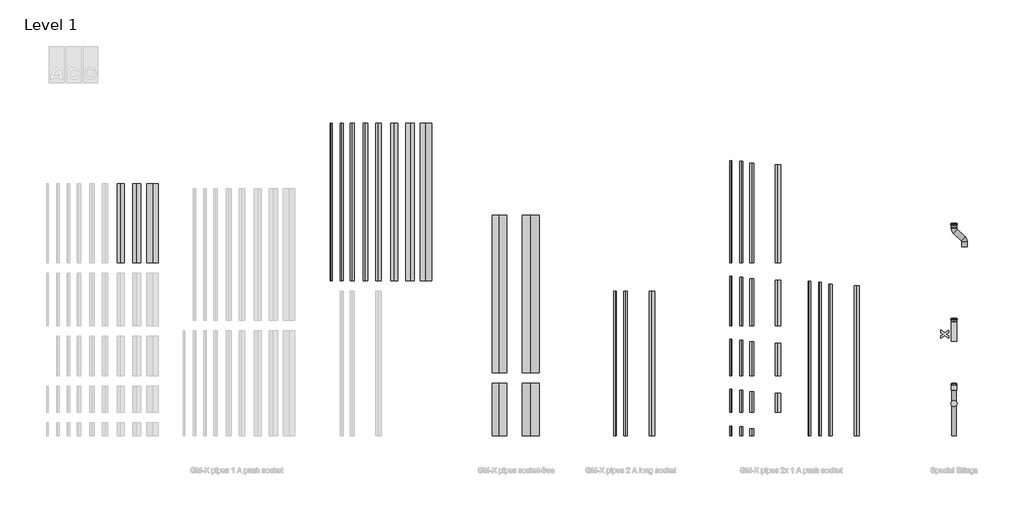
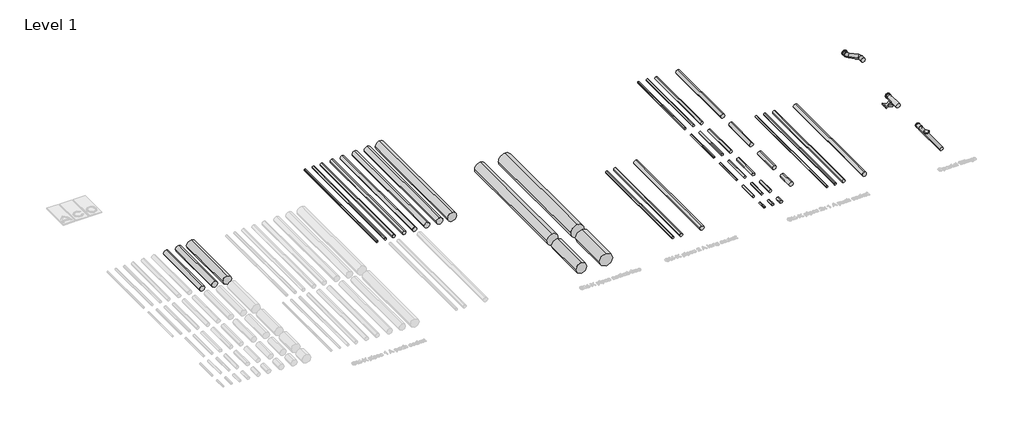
# One storey, part 5 of 8: 41 pipe segments, 4 pipe fittings, 2 valves.
"""IFC4 building model written with IfcOpenShell, lengths in millimetres."""

from ifc_helpers import new_model, si_unit, point, frame, frame_2d, origin, place, context, project, spatial, circle_curve, trimmed, segment, composite_curve, outline, extrude, transform, mapped, element, save
from components import std_49879931, std_nested_473bf3f7, std_nested_0415c611, dn100_200mm_f5a09feb, dn100_200mm_64a89e8e

model = new_model("IFC4")

# Units and contexts
model_context = context("Model", 3, world=origin())
ifc_project = project(units=[si_unit("LENGTHUNIT", "METRE", prefix="MILLI")], contexts=[model_context])

# Site, building, storey
site = spatial("IfcSite", under=ifc_project)
building = spatial("IfcBuilding", under=site)
storey = spatial("IfcBuildingStorey", under=building, Name="Level 1", Elevation=0.0)

# Pipe fittings
placement = place(None, origin())
std_shape = std_49879931(model_context)
element("IfcPipeFitting", 1, ObjectType="PIF_ST_UN_GM-X raindown pipe_ACO : std", at=placement, inside=storey, context=model_context, shape_type="MappedRepresentation", body=[
    mapped(std_shape, transform((17750.0, 435.0, 0.0), x_axis=(0.0, 1.0000000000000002, 0.0), y_axis=(-1.0000000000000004, 0.0, 0.0), z_axis=(0.0, 0.0, 1.0000000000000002))),
])
std_nested_shape = std_nested_473bf3f7(model_context)
element("IfcPipeFitting", 2, ObjectType="ZZZ_do not use_PIF_ST_UN_GM-X seal non transitional_ACO : std (nested)", at=placement, inside=storey, context=model_context, shape_type="MappedRepresentation", body=[
    mapped(std_nested_shape, transform((17750.0, 2241.8, 0.0), x_axis=(0.0, 1.0, 0.0), y_axis=(-1.0000000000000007, 0.0, 0.0), z_axis=(0.0, 0.0, 1.0000000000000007))),
])
element("IfcPipeFitting", 3, ObjectType="ZZZ_do not use_PIF_ST_UN_GM-X seal non transitional_ACO : std (nested)", at=placement, inside=storey, context=model_context, shape_type="MappedRepresentation", body=[
    mapped(std_nested_shape, transform((17750.0, 4043.6, 0.0), x_axis=(0.0, 1.0, 0.0), y_axis=(-1.0000000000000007, 0.0, 0.0), z_axis=(0.0, 0.0, 1.0000000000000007))),
])
std_nested_2_shape = std_nested_0415c611(model_context)
element("IfcPipeFitting", 4, ObjectType="ZZZ_do not use_PIF_ST_UN_GM-X seal non transitional_ACO : std (nested)", at=placement, inside=storey, context=model_context, shape_type="MappedRepresentation", body=[
    mapped(std_nested_2_shape, transform((17750.0, 1000.0, 0.0), x_axis=(0.0, 1.0000000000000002, 0.0), y_axis=(-1.0000000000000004, 0.0, 0.0), z_axis=(0.0, 0.0, 1.0000000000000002))),
])

# Pipe segments
element("IfcPipeSegment", 5, ObjectType="GM-X pipe complex", at=placement, inside=storey, context=model_context, shape_type="SweptSolid", body=[
    extrude(outline(composite_curve([segment(trimmed(circle_curve(frame_2d((0.0, 1900.0)), 66.5), [point((0.0, 1966.5))], [point((66.5, 1900.0))], False, "CARTESIAN"), True, "CONTINUOUS"), segment(trimmed(circle_curve(frame_2d((0.0, 1900.0)), 66.5), [point((66.5, 1900.0))], [point((0.0, 1833.5))], False, "CARTESIAN"), True, "CONTINUOUS"), segment(trimmed(circle_curve(frame_2d((0.0, 1900.0)), 66.5), [point((0.0, 1833.5))], [point((-66.5, 1900.0))], False, "CARTESIAN"), True, "CONTINUOUS"), segment(trimmed(circle_curve(frame_2d((0.0, 1900.0)), 66.5), [point((-66.5, 1900.0))], [point((0.0, 1966.5))], False, "CARTESIAN"), True, "CONTINUOUS")], self_intersect=False)), frame((0.0, 3300.0, 0.0), z_axis=(0.0, 1.0, 0.0), x_axis=(0.0, 0.0, 1.0)), (0.0, 0.0, 1.0), 1500.0),
])
element("IfcPipeSegment", 6, ObjectType="GM-X pipe complex", at=placement, inside=storey, context=model_context, shape_type="SweptSolid", body=[
    extrude(outline(composite_curve([segment(trimmed(circle_curve(frame_2d((0.0, 2200.0)), 79.5), [point((0.0, 2279.5))], [point((79.5, 2200.0))], False, "CARTESIAN"), True, "CONTINUOUS"), segment(trimmed(circle_curve(frame_2d((0.0, 2200.0)), 79.5), [point((79.5, 2200.0))], [point((0.0, 2120.5))], False, "CARTESIAN"), True, "CONTINUOUS"), segment(trimmed(circle_curve(frame_2d((0.0, 2200.0)), 79.5), [point((0.0, 2120.5))], [point((-79.5, 2200.0))], False, "CARTESIAN"), True, "CONTINUOUS"), segment(trimmed(circle_curve(frame_2d((0.0, 2200.0)), 79.5), [point((-79.5, 2200.0))], [point((0.0, 2279.5))], False, "CARTESIAN"), True, "CONTINUOUS")], self_intersect=False)), frame((0.0, 3300.0, 0.0), z_axis=(0.0, 1.0, 0.0), x_axis=(0.0, 0.0, 1.0)), (0.0, 0.0, 1.0), 1500.0),
])
element("IfcPipeSegment", 7, ObjectType="GM-X pipe complex", at=placement, inside=storey, context=model_context, shape_type="SweptSolid", body=[
    extrude(outline(composite_curve([segment(trimmed(circle_curve(frame_2d((0.0, 2500.0)), 109.5), [point((0.0, 2609.5))], [point((109.5, 2500.0))], False, "CARTESIAN"), True, "CONTINUOUS"), segment(trimmed(circle_curve(frame_2d((0.0, 2500.0)), 109.5), [point((109.5, 2500.0))], [point((0.0, 2390.5))], False, "CARTESIAN"), True, "CONTINUOUS"), segment(trimmed(circle_curve(frame_2d((0.0, 2500.0)), 109.5), [point((0.0, 2390.5))], [point((-109.5, 2500.0))], False, "CARTESIAN"), True, "CONTINUOUS"), segment(trimmed(circle_curve(frame_2d((0.0, 2500.0)), 109.5), [point((-109.5, 2500.0))], [point((0.0, 2609.5))], False, "CARTESIAN"), True, "CONTINUOUS")], self_intersect=False)), frame((0.0, 3300.0, 0.0), z_axis=(0.0, 1.0, 0.0), x_axis=(0.0, 0.0, 1.0)), (0.0, 0.0, 1.0), 1500.0),
])
element("IfcPipeSegment", 8, ObjectType="GM-X pipe complex", at=placement, inside=storey, context=model_context, shape_type="SweptSolid", body=[
    extrude(outline(composite_curve([segment(trimmed(circle_curve(frame_2d((0.0, 5900.0)), 21.5), [point((0.0, 5921.5))], [point((21.5, 5900.0))], False, "CARTESIAN"), True, "CONTINUOUS"), segment(trimmed(circle_curve(frame_2d((0.0, 5900.0)), 21.5), [point((21.5, 5900.0))], [point((0.0, 5878.5))], False, "CARTESIAN"), True, "CONTINUOUS"), segment(trimmed(circle_curve(frame_2d((0.0, 5900.0)), 21.5), [point((0.0, 5878.5))], [point((-21.5, 5900.0))], False, "CARTESIAN"), True, "CONTINUOUS"), segment(trimmed(circle_curve(frame_2d((0.0, 5900.0)), 21.5), [point((-21.5, 5900.0))], [point((0.0, 5921.5))], False, "CARTESIAN"), True, "CONTINUOUS")], self_intersect=False)), frame((0.0, 2950.0, 0.0), z_axis=(0.0, 1.0, 0.0), x_axis=(0.0, 0.0, 1.0)), (0.0, 0.0, 1.0), 3000.0),
])
element("IfcPipeSegment", 9, ObjectType="GM-X pipe complex", at=placement, inside=storey, context=model_context, shape_type="SweptSolid", body=[
    extrude(outline(composite_curve([segment(trimmed(circle_curve(frame_2d((0.0, 6100.0)), 26.5), [point((0.0, 6126.5))], [point((26.5, 6100.0))], False, "CARTESIAN"), True, "CONTINUOUS"), segment(trimmed(circle_curve(frame_2d((0.0, 6100.0)), 26.5), [point((26.5, 6100.0))], [point((0.0, 6073.5))], False, "CARTESIAN"), True, "CONTINUOUS"), segment(trimmed(circle_curve(frame_2d((0.0, 6100.0)), 26.5), [point((0.0, 6073.5))], [point((-26.5, 6100.0))], False, "CARTESIAN"), True, "CONTINUOUS"), segment(trimmed(circle_curve(frame_2d((0.0, 6100.0)), 26.5), [point((-26.5, 6100.0))], [point((0.0, 6126.5))], False, "CARTESIAN"), True, "CONTINUOUS")], self_intersect=False)), frame((0.0, 2950.0, 0.0), z_axis=(0.0, 1.0, 0.0), x_axis=(0.0, 0.0, 1.0)), (0.0, 0.0, 1.0), 3000.0),
])
element("IfcPipeSegment", 10, ObjectType="GM-X pipe complex", at=placement, inside=storey, context=model_context, shape_type="SweptSolid", body=[
    extrude(outline(composite_curve([segment(trimmed(circle_curve(frame_2d((0.0, 6300.0)), 36.5), [point((0.0, 6336.5))], [point((36.5, 6300.0))], False, "CARTESIAN"), True, "CONTINUOUS"), segment(trimmed(circle_curve(frame_2d((0.0, 6300.0)), 36.5), [point((36.5, 6300.0))], [point((0.0, 6263.5))], False, "CARTESIAN"), True, "CONTINUOUS"), segment(trimmed(circle_curve(frame_2d((0.0, 6300.0)), 36.5), [point((0.0, 6263.5))], [point((-36.5, 6300.0))], False, "CARTESIAN"), True, "CONTINUOUS"), segment(trimmed(circle_curve(frame_2d((0.0, 6300.0)), 36.5), [point((-36.5, 6300.0))], [point((0.0, 6336.5))], False, "CARTESIAN"), True, "CONTINUOUS")], self_intersect=False)), frame((0.0, 2950.0, 0.0), z_axis=(0.0, 1.0, 0.0), x_axis=(0.0, 0.0, 1.0)), (0.0, 0.0, 1.0), 3000.0),
])
element("IfcPipeSegment", 11, ObjectType="GM-X pipe complex", at=placement, inside=storey, context=model_context, shape_type="SweptSolid", body=[
    extrude(outline(composite_curve([segment(trimmed(circle_curve(frame_2d((0.0, 6550.0)), 44.5), [point((0.0, 6594.5))], [point((44.5, 6550.0))], False, "CARTESIAN"), True, "CONTINUOUS"), segment(trimmed(circle_curve(frame_2d((0.0, 6550.0)), 44.5), [point((44.5, 6550.0))], [point((0.0, 6505.5))], False, "CARTESIAN"), True, "CONTINUOUS"), segment(trimmed(circle_curve(frame_2d((0.0, 6550.0)), 44.5), [point((0.0, 6505.5))], [point((-44.5, 6550.0))], False, "CARTESIAN"), True, "CONTINUOUS"), segment(trimmed(circle_curve(frame_2d((0.0, 6550.0)), 44.5), [point((-44.5, 6550.0))], [point((0.0, 6594.5))], False, "CARTESIAN"), True, "CONTINUOUS")], self_intersect=False)), frame((0.0, 2950.0, 0.0), z_axis=(0.0, 1.0, 0.0), x_axis=(0.0, 0.0, 1.0)), (0.0, 0.0, 1.0), 3000.0),
])
element("IfcPipeSegment", 12, ObjectType="GM-X pipe complex", at=placement, inside=storey, context=model_context, shape_type="SweptSolid", body=[
    extrude(outline(composite_curve([segment(trimmed(circle_curve(frame_2d((0.0, 6800.0)), 51.5), [point((0.0, 6851.5))], [point((51.5, 6800.0))], False, "CARTESIAN"), True, "CONTINUOUS"), segment(trimmed(circle_curve(frame_2d((0.0, 6800.0)), 51.5), [point((51.5, 6800.0))], [point((0.0, 6748.5))], False, "CARTESIAN"), True, "CONTINUOUS"), segment(trimmed(circle_curve(frame_2d((0.0, 6800.0)), 51.5), [point((0.0, 6748.5))], [point((-51.5, 6800.0))], False, "CARTESIAN"), True, "CONTINUOUS"), segment(trimmed(circle_curve(frame_2d((0.0, 6800.0)), 51.5), [point((-51.5, 6800.0))], [point((0.0, 6851.5))], False, "CARTESIAN"), True, "CONTINUOUS")], self_intersect=False)), frame((0.0, 2950.0, 0.0), z_axis=(0.0, 1.0, 0.0), x_axis=(0.0, 0.0, 1.0)), (0.0, 0.0, 1.0), 3000.0),
])
element("IfcPipeSegment", 13, ObjectType="GM-X pipe complex", at=placement, inside=storey, context=model_context, shape_type="SweptSolid", body=[
    extrude(outline(composite_curve([segment(trimmed(circle_curve(frame_2d((0.0, 7100.0)), 66.5), [point((0.0, 7166.5))], [point((66.5, 7100.0))], False, "CARTESIAN"), True, "CONTINUOUS"), segment(trimmed(circle_curve(frame_2d((0.0, 7100.0)), 66.5), [point((66.5, 7100.0))], [point((0.0, 7033.5))], False, "CARTESIAN"), True, "CONTINUOUS"), segment(trimmed(circle_curve(frame_2d((0.0, 7100.0)), 66.5), [point((0.0, 7033.5))], [point((-66.5, 7100.0))], False, "CARTESIAN"), True, "CONTINUOUS"), segment(trimmed(circle_curve(frame_2d((0.0, 7100.0)), 66.5), [point((-66.5, 7100.0))], [point((0.0, 7166.5))], False, "CARTESIAN"), True, "CONTINUOUS")], self_intersect=False)), frame((0.0, 2950.0, 0.0), z_axis=(0.0, 1.0, 0.0), x_axis=(0.0, 0.0, 1.0)), (0.0, 0.0, 1.0), 3000.0),
])
element("IfcPipeSegment", 14, ObjectType="GM-X pipe complex", at=placement, inside=storey, context=model_context, shape_type="SweptSolid", body=[
    extrude(outline(composite_curve([segment(trimmed(circle_curve(frame_2d((0.0, 7400.0)), 79.5), [point((0.0, 7479.5))], [point((79.5, 7400.0))], False, "CARTESIAN"), True, "CONTINUOUS"), segment(trimmed(circle_curve(frame_2d((0.0, 7400.0)), 79.5), [point((79.5, 7400.0))], [point((0.0, 7320.5))], False, "CARTESIAN"), True, "CONTINUOUS"), segment(trimmed(circle_curve(frame_2d((0.0, 7400.0)), 79.5), [point((0.0, 7320.5))], [point((-79.5, 7400.0))], False, "CARTESIAN"), True, "CONTINUOUS"), segment(trimmed(circle_curve(frame_2d((0.0, 7400.0)), 79.5), [point((-79.5, 7400.0))], [point((0.0, 7479.5))], False, "CARTESIAN"), True, "CONTINUOUS")], self_intersect=False)), frame((0.0, 2950.0, 0.0), z_axis=(0.0, 1.0, 0.0), x_axis=(0.0, 0.0, 1.0)), (0.0, 0.0, 1.0), 3000.0),
])
element("IfcPipeSegment", 15, ObjectType="GM-X pipe complex", at=placement, inside=storey, context=model_context, shape_type="SweptSolid", body=[
    extrude(outline(composite_curve([segment(trimmed(circle_curve(frame_2d((0.0, 7700.0)), 109.5), [point((0.0, 7809.5))], [point((109.5, 7700.0))], False, "CARTESIAN"), True, "CONTINUOUS"), segment(trimmed(circle_curve(frame_2d((0.0, 7700.0)), 109.5), [point((109.5, 7700.0))], [point((0.0, 7590.5))], False, "CARTESIAN"), True, "CONTINUOUS"), segment(trimmed(circle_curve(frame_2d((0.0, 7700.0)), 109.5), [point((0.0, 7590.5))], [point((-109.5, 7700.0))], False, "CARTESIAN"), True, "CONTINUOUS"), segment(trimmed(circle_curve(frame_2d((0.0, 7700.0)), 109.5), [point((-109.5, 7700.0))], [point((0.0, 7809.5))], False, "CARTESIAN"), True, "CONTINUOUS")], self_intersect=False)), frame((0.0, 2950.0, 0.0), z_axis=(0.0, 1.0, 0.0), x_axis=(0.0, 0.0, 1.0)), (0.0, 0.0, 1.0), 3000.0),
])
element("IfcPipeSegment", 16, ObjectType="GM-X pipe complex", at=placement, inside=storey, context=model_context, shape_type="SweptSolid", body=[
    extrude(outline(composite_curve([segment(trimmed(circle_curve(frame_2d((0.0, 9100.0)), 136.5), [point((0.0, 9236.5))], [point((136.5, 9100.0))], False, "CARTESIAN"), True, "CONTINUOUS"), segment(trimmed(circle_curve(frame_2d((0.0, 9100.0)), 136.5), [point((136.5, 9100.0))], [point((0.0, 8963.5))], False, "CARTESIAN"), True, "CONTINUOUS"), segment(trimmed(circle_curve(frame_2d((0.0, 9100.0)), 136.5), [point((0.0, 8963.5))], [point((-136.5, 9100.0))], False, "CARTESIAN"), True, "CONTINUOUS"), segment(trimmed(circle_curve(frame_2d((0.0, 9100.0)), 136.5), [point((-136.5, 9100.0))], [point((0.0, 9236.5))], False, "CARTESIAN"), True, "CONTINUOUS")], self_intersect=False)), frame((0.0, 0.0, 0.0), z_axis=(0.0, 1.0, 0.0), x_axis=(0.0, 0.0, 1.0)), (0.0, 0.0, 1.0), 1000.0),
])
element("IfcPipeSegment", 17, ObjectType="GM-X pipe complex", at=placement, inside=storey, context=model_context, shape_type="SweptSolid", body=[
    extrude(outline(composite_curve([segment(trimmed(circle_curve(frame_2d((0.0, 9700.0)), 162.0), [point((0.0, 9862.0))], [point((162.0, 9700.0))], False, "CARTESIAN"), True, "CONTINUOUS"), segment(trimmed(circle_curve(frame_2d((0.0, 9700.0)), 162.0), [point((162.0, 9700.0))], [point((0.0, 9538.0))], False, "CARTESIAN"), True, "CONTINUOUS"), segment(trimmed(circle_curve(frame_2d((0.0, 9700.0)), 162.0), [point((0.0, 9538.0))], [point((-162.0, 9700.0))], False, "CARTESIAN"), True, "CONTINUOUS"), segment(trimmed(circle_curve(frame_2d((0.0, 9700.0)), 162.0), [point((-162.0, 9700.0))], [point((0.0, 9862.0))], False, "CARTESIAN"), True, "CONTINUOUS")], self_intersect=False)), frame((0.0, 0.0, 0.0), z_axis=(0.0, 1.0, 0.0), x_axis=(0.0, 0.0, 1.0)), (0.0, 0.0, 1.0), 1000.0),
])
element("IfcPipeSegment", 18, ObjectType="GM-X pipe complex", at=placement, inside=storey, context=model_context, shape_type="SweptSolid", body=[
    extrude(outline(composite_curve([segment(trimmed(circle_curve(frame_2d((0.0, 9100.0)), 136.5), [point((0.0, 9236.5))], [point((136.5, 9100.0))], False, "CARTESIAN"), True, "CONTINUOUS"), segment(trimmed(circle_curve(frame_2d((0.0, 9100.0)), 136.5), [point((136.5, 9100.0))], [point((0.0, 8963.5))], False, "CARTESIAN"), True, "CONTINUOUS"), segment(trimmed(circle_curve(frame_2d((0.0, 9100.0)), 136.5), [point((0.0, 8963.5))], [point((-136.5, 9100.0))], False, "CARTESIAN"), True, "CONTINUOUS"), segment(trimmed(circle_curve(frame_2d((0.0, 9100.0)), 136.5), [point((-136.5, 9100.0))], [point((0.0, 9236.5))], False, "CARTESIAN"), True, "CONTINUOUS")], self_intersect=False)), frame((0.0, 1200.0, 0.0), z_axis=(0.0, 1.0, 0.0), x_axis=(0.0, 0.0, 1.0)), (0.0, 0.0, 1.0), 3000.0),
])
element("IfcPipeSegment", 19, ObjectType="GM-X pipe complex", at=placement, inside=storey, context=model_context, shape_type="SweptSolid", body=[
    extrude(outline(composite_curve([segment(trimmed(circle_curve(frame_2d((0.0, 9700.0)), 162.0), [point((0.0, 9862.0))], [point((162.0, 9700.0))], False, "CARTESIAN"), True, "CONTINUOUS"), segment(trimmed(circle_curve(frame_2d((0.0, 9700.0)), 162.0), [point((162.0, 9700.0))], [point((0.0, 9538.0))], False, "CARTESIAN"), True, "CONTINUOUS"), segment(trimmed(circle_curve(frame_2d((0.0, 9700.0)), 162.0), [point((0.0, 9538.0))], [point((-162.0, 9700.0))], False, "CARTESIAN"), True, "CONTINUOUS"), segment(trimmed(circle_curve(frame_2d((0.0, 9700.0)), 162.0), [point((-162.0, 9700.0))], [point((0.0, 9862.0))], False, "CARTESIAN"), True, "CONTINUOUS")], self_intersect=False)), frame((0.0, 1200.0, 0.0), z_axis=(0.0, 1.0, 0.0), x_axis=(0.0, 0.0, 1.0)), (0.0, 0.0, 1.0), 3000.0),
])
element("IfcPipeSegment", 20, ObjectType="GM-X pipe complex", at=placement, inside=storey, context=model_context, shape_type="SweptSolid", body=[
    extrude(outline(composite_curve([segment(trimmed(circle_curve(frame_2d((0.0, 11300.0)), 26.5), [point((0.0, 11326.5))], [point((26.5, 11300.0))], False, "CARTESIAN"), True, "CONTINUOUS"), segment(trimmed(circle_curve(frame_2d((0.0, 11300.0)), 26.5), [point((26.5, 11300.0))], [point((0.0, 11273.5))], False, "CARTESIAN"), True, "CONTINUOUS"), segment(trimmed(circle_curve(frame_2d((0.0, 11300.0)), 26.5), [point((0.0, 11273.5))], [point((-26.5, 11300.0))], False, "CARTESIAN"), True, "CONTINUOUS"), segment(trimmed(circle_curve(frame_2d((0.0, 11300.0)), 26.5), [point((-26.5, 11300.0))], [point((0.0, 11326.5))], False, "CARTESIAN"), True, "CONTINUOUS")], self_intersect=False)), frame((0.0, 0.0, 0.0), z_axis=(0.0, 1.0, 0.0), x_axis=(0.0, 0.0, 1.0)), (0.0, 0.0, 1.0), 2750.0),
])
element("IfcPipeSegment", 21, ObjectType="GM-X pipe complex", at=placement, inside=storey, context=model_context, shape_type="SweptSolid", body=[
    extrude(outline(composite_curve([segment(trimmed(circle_curve(frame_2d((0.0, 11500.0)), 36.5), [point((0.0, 11536.5))], [point((36.5, 11500.0))], False, "CARTESIAN"), True, "CONTINUOUS"), segment(trimmed(circle_curve(frame_2d((0.0, 11500.0)), 36.5), [point((36.5, 11500.0))], [point((0.0, 11463.5))], False, "CARTESIAN"), True, "CONTINUOUS"), segment(trimmed(circle_curve(frame_2d((0.0, 11500.0)), 36.5), [point((0.0, 11463.5))], [point((-36.5, 11500.0))], False, "CARTESIAN"), True, "CONTINUOUS"), segment(trimmed(circle_curve(frame_2d((0.0, 11500.0)), 36.5), [point((-36.5, 11500.0))], [point((0.0, 11536.5))], False, "CARTESIAN"), True, "CONTINUOUS")], self_intersect=False)), frame((0.0, 0.0, 0.0), z_axis=(0.0, 1.0, 0.0), x_axis=(0.0, 0.0, 1.0)), (0.0, 0.0, 1.0), 2750.0),
])
element("IfcPipeSegment", 22, ObjectType="GM-X pipe complex", at=placement, inside=storey, context=model_context, shape_type="SweptSolid", body=[
    extrude(outline(composite_curve([segment(trimmed(circle_curve(frame_2d((0.0, 12000.0)), 51.5), [point((0.0, 12051.5))], [point((51.5, 12000.0))], False, "CARTESIAN"), True, "CONTINUOUS"), segment(trimmed(circle_curve(frame_2d((0.0, 12000.0)), 51.5), [point((51.5, 12000.0))], [point((0.0, 11948.5))], False, "CARTESIAN"), True, "CONTINUOUS"), segment(trimmed(circle_curve(frame_2d((0.0, 12000.0)), 51.5), [point((0.0, 11948.5))], [point((-51.5, 12000.0))], False, "CARTESIAN"), True, "CONTINUOUS"), segment(trimmed(circle_curve(frame_2d((0.0, 12000.0)), 51.5), [point((-51.5, 12000.0))], [point((0.0, 12051.5))], False, "CARTESIAN"), True, "CONTINUOUS")], self_intersect=False)), frame((0.0, 0.0, 0.0), z_axis=(0.0, 1.0, 0.0), x_axis=(0.0, 0.0, 1.0)), (0.0, 0.0, 1.0), 2750.0),
])
element("IfcPipeSegment", 23, ObjectType="GM-X pipe complex", at=placement, inside=storey, context=model_context, shape_type="SweptSolid", body=[
    extrude(outline(composite_curve([segment(trimmed(circle_curve(frame_2d((0.0, 13500.0)), 21.5), [point((0.0, 13521.5))], [point((21.5, 13500.0))], False, "CARTESIAN"), True, "CONTINUOUS"), segment(trimmed(circle_curve(frame_2d((0.0, 13500.0)), 21.5), [point((21.5, 13500.0))], [point((0.0, 13478.5))], False, "CARTESIAN"), True, "CONTINUOUS"), segment(trimmed(circle_curve(frame_2d((0.0, 13500.0)), 21.5), [point((0.0, 13478.5))], [point((-21.5, 13500.0))], False, "CARTESIAN"), True, "CONTINUOUS"), segment(trimmed(circle_curve(frame_2d((0.0, 13500.0)), 21.5), [point((-21.5, 13500.0))], [point((0.0, 13521.5))], False, "CARTESIAN"), True, "CONTINUOUS")], self_intersect=False)), frame((0.0, 0.0, 0.0), z_axis=(0.0, 1.0, 0.0), x_axis=(0.0, 0.0, 1.0)), (0.0, 0.0, 1.0), 190.0),
])
element("IfcPipeSegment", 24, ObjectType="GM-X pipe complex", at=placement, inside=storey, context=model_context, shape_type="SweptSolid", body=[
    extrude(outline(composite_curve([segment(trimmed(circle_curve(frame_2d((0.0, 13700.0)), 26.5), [point((0.0, 13726.5))], [point((26.5, 13700.0))], False, "CARTESIAN"), True, "CONTINUOUS"), segment(trimmed(circle_curve(frame_2d((0.0, 13700.0)), 26.5), [point((26.5, 13700.0))], [point((0.0, 13673.5))], False, "CARTESIAN"), True, "CONTINUOUS"), segment(trimmed(circle_curve(frame_2d((0.0, 13700.0)), 26.5), [point((0.0, 13673.5))], [point((-26.5, 13700.0))], False, "CARTESIAN"), True, "CONTINUOUS"), segment(trimmed(circle_curve(frame_2d((0.0, 13700.0)), 26.5), [point((-26.5, 13700.0))], [point((0.0, 13726.5))], False, "CARTESIAN"), True, "CONTINUOUS")], self_intersect=False)), frame((0.0, 0.0, 0.0), z_axis=(0.0, 1.0, 0.0), x_axis=(0.0, 0.0, 1.0)), (0.0, 0.0, 1.0), 174.0),
])
element("IfcPipeSegment", 25, ObjectType="GM-X pipe complex", at=placement, inside=storey, context=model_context, shape_type="SweptSolid", body=[
    extrude(outline(composite_curve([segment(trimmed(circle_curve(frame_2d((0.0, 13900.0)), 36.5), [point((0.0, 13936.5))], [point((36.5, 13900.0))], False, "CARTESIAN"), True, "CONTINUOUS"), segment(trimmed(circle_curve(frame_2d((0.0, 13900.0)), 36.5), [point((36.5, 13900.0))], [point((0.0, 13863.5))], False, "CARTESIAN"), True, "CONTINUOUS"), segment(trimmed(circle_curve(frame_2d((0.0, 13900.0)), 36.5), [point((0.0, 13863.5))], [point((-36.5, 13900.0))], False, "CARTESIAN"), True, "CONTINUOUS"), segment(trimmed(circle_curve(frame_2d((0.0, 13900.0)), 36.5), [point((-36.5, 13900.0))], [point((0.0, 13936.5))], False, "CARTESIAN"), True, "CONTINUOUS")], self_intersect=False)), frame((0.0, 0.0, 0.0), z_axis=(0.0, 1.0, 0.0), x_axis=(0.0, 0.0, 1.0)), (0.0, 0.0, 1.0), 140.0),
])
element("IfcPipeSegment", 26, ObjectType="GM-X pipe complex", at=placement, inside=storey, context=model_context, shape_type="SweptSolid", body=[
    extrude(outline(composite_curve([segment(trimmed(circle_curve(frame_2d((0.0, 13500.0)), 21.5), [point((0.0, 13521.5))], [point((21.5, 13500.0))], False, "CARTESIAN"), True, "CONTINUOUS"), segment(trimmed(circle_curve(frame_2d((0.0, 13500.0)), 21.5), [point((21.5, 13500.0))], [point((0.0, 13478.5))], False, "CARTESIAN"), True, "CONTINUOUS"), segment(trimmed(circle_curve(frame_2d((0.0, 13500.0)), 21.5), [point((0.0, 13478.5))], [point((-21.5, 13500.0))], False, "CARTESIAN"), True, "CONTINUOUS"), segment(trimmed(circle_curve(frame_2d((0.0, 13500.0)), 21.5), [point((-21.5, 13500.0))], [point((0.0, 13521.5))], False, "CARTESIAN"), True, "CONTINUOUS")], self_intersect=False)), frame((0.0, 450.0, 0.0), z_axis=(0.0, 1.0, 0.0), x_axis=(0.0, 0.0, 1.0)), (0.0, 0.0, 1.0), 440.0),
])
element("IfcPipeSegment", 27, ObjectType="GM-X pipe complex", at=placement, inside=storey, context=model_context, shape_type="SweptSolid", body=[
    extrude(outline(composite_curve([segment(trimmed(circle_curve(frame_2d((0.0, 13700.0)), 26.5), [point((0.0, 13726.5))], [point((26.5, 13700.0))], False, "CARTESIAN"), True, "CONTINUOUS"), segment(trimmed(circle_curve(frame_2d((0.0, 13700.0)), 26.5), [point((26.5, 13700.0))], [point((0.0, 13673.5))], False, "CARTESIAN"), True, "CONTINUOUS"), segment(trimmed(circle_curve(frame_2d((0.0, 13700.0)), 26.5), [point((0.0, 13673.5))], [point((-26.5, 13700.0))], False, "CARTESIAN"), True, "CONTINUOUS"), segment(trimmed(circle_curve(frame_2d((0.0, 13700.0)), 26.5), [point((-26.5, 13700.0))], [point((0.0, 13726.5))], False, "CARTESIAN"), True, "CONTINUOUS")], self_intersect=False)), frame((0.0, 450.0, 0.0), z_axis=(0.0, 1.0, 0.0), x_axis=(0.0, 0.0, 1.0)), (0.0, 0.0, 1.0), 424.0),
])
element("IfcPipeSegment", 28, ObjectType="GM-X pipe complex", at=placement, inside=storey, context=model_context, shape_type="SweptSolid", body=[
    extrude(outline(composite_curve([segment(trimmed(circle_curve(frame_2d((0.0, 13900.0)), 36.5), [point((0.0, 13936.5))], [point((36.5, 13900.0))], False, "CARTESIAN"), True, "CONTINUOUS"), segment(trimmed(circle_curve(frame_2d((0.0, 13900.0)), 36.5), [point((36.5, 13900.0))], [point((0.0, 13863.5))], False, "CARTESIAN"), True, "CONTINUOUS"), segment(trimmed(circle_curve(frame_2d((0.0, 13900.0)), 36.5), [point((0.0, 13863.5))], [point((-36.5, 13900.0))], False, "CARTESIAN"), True, "CONTINUOUS"), segment(trimmed(circle_curve(frame_2d((0.0, 13900.0)), 36.5), [point((-36.5, 13900.0))], [point((0.0, 13936.5))], False, "CARTESIAN"), True, "CONTINUOUS")], self_intersect=False)), frame((0.0, 450.0, 0.0), z_axis=(0.0, 1.0, 0.0), x_axis=(0.0, 0.0, 1.0)), (0.0, 0.0, 1.0), 390.0),
])
element("IfcPipeSegment", 29, ObjectType="GM-X pipe complex", at=placement, inside=storey, context=model_context, shape_type="SweptSolid", body=[
    extrude(outline(composite_curve([segment(trimmed(circle_curve(frame_2d((0.0, 14400.0)), 51.5), [point((0.0, 14451.5))], [point((51.5, 14400.0))], False, "CARTESIAN"), True, "CONTINUOUS"), segment(trimmed(circle_curve(frame_2d((0.0, 14400.0)), 51.5), [point((51.5, 14400.0))], [point((0.0, 14348.5))], False, "CARTESIAN"), True, "CONTINUOUS"), segment(trimmed(circle_curve(frame_2d((0.0, 14400.0)), 51.5), [point((0.0, 14348.5))], [point((-51.5, 14400.0))], False, "CARTESIAN"), True, "CONTINUOUS"), segment(trimmed(circle_curve(frame_2d((0.0, 14400.0)), 51.5), [point((-51.5, 14400.0))], [point((0.0, 14451.5))], False, "CARTESIAN"), True, "CONTINUOUS")], self_intersect=False)), frame((0.0, 450.0, 0.0), z_axis=(0.0, 1.0, 0.0), x_axis=(0.0, 0.0, 1.0)), (0.0, 0.0, 1.0), 360.0),
])
element("IfcPipeSegment", 30, ObjectType="GM-X pipe complex", at=placement, inside=storey, context=model_context, shape_type="SweptSolid", body=[
    extrude(outline(composite_curve([segment(trimmed(circle_curve(frame_2d((0.0, 13500.0)), 21.5), [point((0.0, 13521.5))], [point((21.5, 13500.0))], False, "CARTESIAN"), True, "CONTINUOUS"), segment(trimmed(circle_curve(frame_2d((0.0, 13500.0)), 21.5), [point((21.5, 13500.0))], [point((0.0, 13478.5))], False, "CARTESIAN"), True, "CONTINUOUS"), segment(trimmed(circle_curve(frame_2d((0.0, 13500.0)), 21.5), [point((0.0, 13478.5))], [point((-21.5, 13500.0))], False, "CARTESIAN"), True, "CONTINUOUS"), segment(trimmed(circle_curve(frame_2d((0.0, 13500.0)), 21.5), [point((-21.5, 13500.0))], [point((0.0, 13521.5))], False, "CARTESIAN"), True, "CONTINUOUS")], self_intersect=False)), frame((0.0, 1150.0, 0.0), z_axis=(0.0, 1.0, 0.0), x_axis=(0.0, 0.0, 1.0)), (0.0, 0.0, 1.0), 690.0),
])
element("IfcPipeSegment", 31, ObjectType="GM-X pipe complex", at=placement, inside=storey, context=model_context, shape_type="SweptSolid", body=[
    extrude(outline(composite_curve([segment(trimmed(circle_curve(frame_2d((0.0, 13700.0)), 26.5), [point((0.0, 13726.5))], [point((26.5, 13700.0))], False, "CARTESIAN"), True, "CONTINUOUS"), segment(trimmed(circle_curve(frame_2d((0.0, 13700.0)), 26.5), [point((26.5, 13700.0))], [point((0.0, 13673.5))], False, "CARTESIAN"), True, "CONTINUOUS"), segment(trimmed(circle_curve(frame_2d((0.0, 13700.0)), 26.5), [point((0.0, 13673.5))], [point((-26.5, 13700.0))], False, "CARTESIAN"), True, "CONTINUOUS"), segment(trimmed(circle_curve(frame_2d((0.0, 13700.0)), 26.5), [point((-26.5, 13700.0))], [point((0.0, 13726.5))], False, "CARTESIAN"), True, "CONTINUOUS")], self_intersect=False)), frame((0.0, 1150.0, 0.0), z_axis=(0.0, 1.0, 0.0), x_axis=(0.0, 0.0, 1.0)), (0.0, 0.0, 1.0), 674.0),
])
element("IfcPipeSegment", 32, ObjectType="GM-X pipe complex", at=placement, inside=storey, context=model_context, shape_type="SweptSolid", body=[
    extrude(outline(composite_curve([segment(trimmed(circle_curve(frame_2d((0.0, 13900.0)), 36.5), [point((0.0, 13936.5))], [point((36.5, 13900.0))], False, "CARTESIAN"), True, "CONTINUOUS"), segment(trimmed(circle_curve(frame_2d((0.0, 13900.0)), 36.5), [point((36.5, 13900.0))], [point((0.0, 13863.5))], False, "CARTESIAN"), True, "CONTINUOUS"), segment(trimmed(circle_curve(frame_2d((0.0, 13900.0)), 36.5), [point((0.0, 13863.5))], [point((-36.5, 13900.0))], False, "CARTESIAN"), True, "CONTINUOUS"), segment(trimmed(circle_curve(frame_2d((0.0, 13900.0)), 36.5), [point((-36.5, 13900.0))], [point((0.0, 13936.5))], False, "CARTESIAN"), True, "CONTINUOUS")], self_intersect=False)), frame((0.0, 1150.0, 0.0), z_axis=(0.0, 1.0, 0.0), x_axis=(0.0, 0.0, 1.0)), (0.0, 0.0, 1.0), 640.0),
])
element("IfcPipeSegment", 33, ObjectType="GM-X pipe complex", at=placement, inside=storey, context=model_context, shape_type="SweptSolid", body=[
    extrude(outline(composite_curve([segment(trimmed(circle_curve(frame_2d((0.0, 14400.0)), 51.5), [point((0.0, 14451.5))], [point((51.5, 14400.0))], False, "CARTESIAN"), True, "CONTINUOUS"), segment(trimmed(circle_curve(frame_2d((0.0, 14400.0)), 51.5), [point((51.5, 14400.0))], [point((0.0, 14348.5))], False, "CARTESIAN"), True, "CONTINUOUS"), segment(trimmed(circle_curve(frame_2d((0.0, 14400.0)), 51.5), [point((0.0, 14348.5))], [point((-51.5, 14400.0))], False, "CARTESIAN"), True, "CONTINUOUS"), segment(trimmed(circle_curve(frame_2d((0.0, 14400.0)), 51.5), [point((-51.5, 14400.0))], [point((0.0, 14451.5))], False, "CARTESIAN"), True, "CONTINUOUS")], self_intersect=False)), frame((0.0, 1150.0, 0.0), z_axis=(0.0, 1.0, 0.0), x_axis=(0.0, 0.0, 1.0)), (0.0, 0.0, 1.0), 610.0),
])
element("IfcPipeSegment", 34, ObjectType="GM-X pipe complex", at=placement, inside=storey, context=model_context, shape_type="SweptSolid", body=[
    extrude(outline(composite_curve([segment(trimmed(circle_curve(frame_2d((0.0, 13500.0)), 21.5), [point((0.0, 13521.5))], [point((21.5, 13500.0))], False, "CARTESIAN"), True, "CONTINUOUS"), segment(trimmed(circle_curve(frame_2d((0.0, 13500.0)), 21.5), [point((21.5, 13500.0))], [point((0.0, 13478.5))], False, "CARTESIAN"), True, "CONTINUOUS"), segment(trimmed(circle_curve(frame_2d((0.0, 13500.0)), 21.5), [point((0.0, 13478.5))], [point((-21.5, 13500.0))], False, "CARTESIAN"), True, "CONTINUOUS"), segment(trimmed(circle_curve(frame_2d((0.0, 13500.0)), 21.5), [point((-21.5, 13500.0))], [point((0.0, 13521.5))], False, "CARTESIAN"), True, "CONTINUOUS")], self_intersect=False)), frame((0.0, 2100.0, 0.0), z_axis=(0.0, 1.0, 0.0), x_axis=(0.0, 0.0, 1.0)), (0.0, 0.0, 1.0), 940.0),
])
element("IfcPipeSegment", 35, ObjectType="GM-X pipe complex", at=placement, inside=storey, context=model_context, shape_type="SweptSolid", body=[
    extrude(outline(composite_curve([segment(trimmed(circle_curve(frame_2d((0.0, 13700.0)), 26.5), [point((0.0, 13726.5))], [point((26.5, 13700.0))], False, "CARTESIAN"), True, "CONTINUOUS"), segment(trimmed(circle_curve(frame_2d((0.0, 13700.0)), 26.5), [point((26.5, 13700.0))], [point((0.0, 13673.5))], False, "CARTESIAN"), True, "CONTINUOUS"), segment(trimmed(circle_curve(frame_2d((0.0, 13700.0)), 26.5), [point((0.0, 13673.5))], [point((-26.5, 13700.0))], False, "CARTESIAN"), True, "CONTINUOUS"), segment(trimmed(circle_curve(frame_2d((0.0, 13700.0)), 26.5), [point((-26.5, 13700.0))], [point((0.0, 13726.5))], False, "CARTESIAN"), True, "CONTINUOUS")], self_intersect=False)), frame((0.0, 2100.0, 0.0), z_axis=(0.0, 1.0, 0.0), x_axis=(0.0, 0.0, 1.0)), (0.0, 0.0, 1.0), 924.0),
])
element("IfcPipeSegment", 36, ObjectType="GM-X pipe complex", at=placement, inside=storey, context=model_context, shape_type="SweptSolid", body=[
    extrude(outline(composite_curve([segment(trimmed(circle_curve(frame_2d((0.0, 13900.0)), 36.5), [point((0.0, 13936.5))], [point((36.5, 13900.0))], False, "CARTESIAN"), True, "CONTINUOUS"), segment(trimmed(circle_curve(frame_2d((0.0, 13900.0)), 36.5), [point((36.5, 13900.0))], [point((0.0, 13863.5))], False, "CARTESIAN"), True, "CONTINUOUS"), segment(trimmed(circle_curve(frame_2d((0.0, 13900.0)), 36.5), [point((0.0, 13863.5))], [point((-36.5, 13900.0))], False, "CARTESIAN"), True, "CONTINUOUS"), segment(trimmed(circle_curve(frame_2d((0.0, 13900.0)), 36.5), [point((-36.5, 13900.0))], [point((0.0, 13936.5))], False, "CARTESIAN"), True, "CONTINUOUS")], self_intersect=False)), frame((0.0, 2100.0, 0.0), z_axis=(0.0, 1.0, 0.0), x_axis=(0.0, 0.0, 1.0)), (0.0, 0.0, 1.0), 890.0),
])
element("IfcPipeSegment", 37, ObjectType="GM-X pipe complex", at=placement, inside=storey, context=model_context, shape_type="SweptSolid", body=[
    extrude(outline(composite_curve([segment(trimmed(circle_curve(frame_2d((0.0, 14400.0)), 51.5), [point((0.0, 14451.5))], [point((51.5, 14400.0))], False, "CARTESIAN"), True, "CONTINUOUS"), segment(trimmed(circle_curve(frame_2d((0.0, 14400.0)), 51.5), [point((51.5, 14400.0))], [point((0.0, 14348.5))], False, "CARTESIAN"), True, "CONTINUOUS"), segment(trimmed(circle_curve(frame_2d((0.0, 14400.0)), 51.5), [point((0.0, 14348.5))], [point((-51.5, 14400.0))], False, "CARTESIAN"), True, "CONTINUOUS"), segment(trimmed(circle_curve(frame_2d((0.0, 14400.0)), 51.5), [point((-51.5, 14400.0))], [point((0.0, 14451.5))], False, "CARTESIAN"), True, "CONTINUOUS")], self_intersect=False)), frame((0.0, 2100.0, 0.0), z_axis=(0.0, 1.0, 0.0), x_axis=(0.0, 0.0, 1.0)), (0.0, 0.0, 1.0), 860.0),
])
element("IfcPipeSegment", 38, ObjectType="GM-X pipe complex", at=placement, inside=storey, context=model_context, shape_type="SweptSolid", body=[
    extrude(outline(composite_curve([segment(trimmed(circle_curve(frame_2d((0.0, 13500.0)), 21.5), [point((0.0, 13521.5))], [point((21.5, 13500.0))], False, "CARTESIAN"), True, "CONTINUOUS"), segment(trimmed(circle_curve(frame_2d((0.0, 13500.0)), 21.5), [point((21.5, 13500.0))], [point((0.0, 13478.5))], False, "CARTESIAN"), True, "CONTINUOUS"), segment(trimmed(circle_curve(frame_2d((0.0, 13500.0)), 21.5), [point((0.0, 13478.5))], [point((-21.5, 13500.0))], False, "CARTESIAN"), True, "CONTINUOUS"), segment(trimmed(circle_curve(frame_2d((0.0, 13500.0)), 21.5), [point((-21.5, 13500.0))], [point((0.0, 13521.5))], False, "CARTESIAN"), True, "CONTINUOUS")], self_intersect=False)), frame((0.0, 3300.0, 0.0), z_axis=(0.0, 1.0, 0.0), x_axis=(0.0, 0.0, 1.0)), (0.0, 0.0, 1.0), 1940.0),
])
element("IfcPipeSegment", 39, ObjectType="GM-X pipe complex", at=placement, inside=storey, context=model_context, shape_type="SweptSolid", body=[
    extrude(outline(composite_curve([segment(trimmed(circle_curve(frame_2d((0.0, 13700.0)), 26.5), [point((0.0, 13726.5))], [point((26.5, 13700.0))], False, "CARTESIAN"), True, "CONTINUOUS"), segment(trimmed(circle_curve(frame_2d((0.0, 13700.0)), 26.5), [point((26.5, 13700.0))], [point((0.0, 13673.5))], False, "CARTESIAN"), True, "CONTINUOUS"), segment(trimmed(circle_curve(frame_2d((0.0, 13700.0)), 26.5), [point((0.0, 13673.5))], [point((-26.5, 13700.0))], False, "CARTESIAN"), True, "CONTINUOUS"), segment(trimmed(circle_curve(frame_2d((0.0, 13700.0)), 26.5), [point((-26.5, 13700.0))], [point((0.0, 13726.5))], False, "CARTESIAN"), True, "CONTINUOUS")], self_intersect=False)), frame((0.0, 3300.0, 0.0), z_axis=(0.0, 1.0, 0.0), x_axis=(0.0, 0.0, 1.0)), (0.0, 0.0, 1.0), 1924.0),
])
element("IfcPipeSegment", 40, ObjectType="GM-X pipe complex", at=placement, inside=storey, context=model_context, shape_type="SweptSolid", body=[
    extrude(outline(composite_curve([segment(trimmed(circle_curve(frame_2d((0.0, 13900.0)), 36.5), [point((0.0, 13936.5))], [point((36.5, 13900.0))], False, "CARTESIAN"), True, "CONTINUOUS"), segment(trimmed(circle_curve(frame_2d((0.0, 13900.0)), 36.5), [point((36.5, 13900.0))], [point((0.0, 13863.5))], False, "CARTESIAN"), True, "CONTINUOUS"), segment(trimmed(circle_curve(frame_2d((0.0, 13900.0)), 36.5), [point((0.0, 13863.5))], [point((-36.5, 13900.0))], False, "CARTESIAN"), True, "CONTINUOUS"), segment(trimmed(circle_curve(frame_2d((0.0, 13900.0)), 36.5), [point((-36.5, 13900.0))], [point((0.0, 13936.5))], False, "CARTESIAN"), True, "CONTINUOUS")], self_intersect=False)), frame((0.0, 3300.0, 0.0), z_axis=(0.0, 1.0, 0.0), x_axis=(0.0, 0.0, 1.0)), (0.0, 0.0, 1.0), 1890.0),
])
element("IfcPipeSegment", 41, ObjectType="GM-X pipe complex", at=placement, inside=storey, context=model_context, shape_type="SweptSolid", body=[
    extrude(outline(composite_curve([segment(trimmed(circle_curve(frame_2d((0.0, 14400.0)), 51.5), [point((0.0, 14451.5))], [point((51.5, 14400.0))], False, "CARTESIAN"), True, "CONTINUOUS"), segment(trimmed(circle_curve(frame_2d((0.0, 14400.0)), 51.5), [point((51.5, 14400.0))], [point((0.0, 14348.5))], False, "CARTESIAN"), True, "CONTINUOUS"), segment(trimmed(circle_curve(frame_2d((0.0, 14400.0)), 51.5), [point((0.0, 14348.5))], [point((-51.5, 14400.0))], False, "CARTESIAN"), True, "CONTINUOUS"), segment(trimmed(circle_curve(frame_2d((0.0, 14400.0)), 51.5), [point((-51.5, 14400.0))], [point((0.0, 14451.5))], False, "CARTESIAN"), True, "CONTINUOUS")], self_intersect=False)), frame((0.0, 3300.0, 0.0), z_axis=(0.0, 1.0, 0.0), x_axis=(0.0, 0.0, 1.0)), (0.0, 0.0, 1.0), 1860.0),
])
element("IfcPipeSegment", 42, ObjectType="GM-X pipe complex", at=placement, inside=storey, context=model_context, shape_type="SweptSolid", body=[
    extrude(outline(composite_curve([segment(trimmed(circle_curve(frame_2d((0.0, 15000.0)), 21.5), [point((0.0, 15021.5))], [point((21.5, 15000.0))], False, "CARTESIAN"), True, "CONTINUOUS"), segment(trimmed(circle_curve(frame_2d((0.0, 15000.0)), 21.5), [point((21.5, 15000.0))], [point((0.0, 14978.5))], False, "CARTESIAN"), True, "CONTINUOUS"), segment(trimmed(circle_curve(frame_2d((0.0, 15000.0)), 21.5), [point((0.0, 14978.5))], [point((-21.5, 15000.0))], False, "CARTESIAN"), True, "CONTINUOUS"), segment(trimmed(circle_curve(frame_2d((0.0, 15000.0)), 21.5), [point((-21.5, 15000.0))], [point((0.0, 15021.5))], False, "CARTESIAN"), True, "CONTINUOUS")], self_intersect=False)), frame((0.0, 0.0, 0.0), z_axis=(0.0, 1.0, 0.0), x_axis=(0.0, 0.0, 1.0)), (0.0, 0.0, 1.0), 2940.0),
])
element("IfcPipeSegment", 43, ObjectType="GM-X pipe complex", at=placement, inside=storey, context=model_context, shape_type="SweptSolid", body=[
    extrude(outline(composite_curve([segment(trimmed(circle_curve(frame_2d((0.0, 15200.0)), 26.5), [point((0.0, 15226.5))], [point((26.5, 15200.0))], False, "CARTESIAN"), True, "CONTINUOUS"), segment(trimmed(circle_curve(frame_2d((0.0, 15200.0)), 26.5), [point((26.5, 15200.0))], [point((0.0, 15173.5))], False, "CARTESIAN"), True, "CONTINUOUS"), segment(trimmed(circle_curve(frame_2d((0.0, 15200.0)), 26.5), [point((0.0, 15173.5))], [point((-26.5, 15200.0))], False, "CARTESIAN"), True, "CONTINUOUS"), segment(trimmed(circle_curve(frame_2d((0.0, 15200.0)), 26.5), [point((-26.5, 15200.0))], [point((0.0, 15226.5))], False, "CARTESIAN"), True, "CONTINUOUS")], self_intersect=False)), frame((0.0, 0.0, 0.0), z_axis=(0.0, 1.0, 0.0), x_axis=(0.0, 0.0, 1.0)), (0.0, 0.0, 1.0), 2924.0),
])
element("IfcPipeSegment", 44, ObjectType="GM-X pipe complex", at=placement, inside=storey, context=model_context, shape_type="SweptSolid", body=[
    extrude(outline(composite_curve([segment(trimmed(circle_curve(frame_2d((0.0, 15400.0)), 36.5), [point((0.0, 15436.5))], [point((36.5, 15400.0))], False, "CARTESIAN"), True, "CONTINUOUS"), segment(trimmed(circle_curve(frame_2d((0.0, 15400.0)), 36.5), [point((36.5, 15400.0))], [point((0.0, 15363.5))], False, "CARTESIAN"), True, "CONTINUOUS"), segment(trimmed(circle_curve(frame_2d((0.0, 15400.0)), 36.5), [point((0.0, 15363.5))], [point((-36.5, 15400.0))], False, "CARTESIAN"), True, "CONTINUOUS"), segment(trimmed(circle_curve(frame_2d((0.0, 15400.0)), 36.5), [point((-36.5, 15400.0))], [point((0.0, 15436.5))], False, "CARTESIAN"), True, "CONTINUOUS")], self_intersect=False)), frame((0.0, 0.0, 0.0), z_axis=(0.0, 1.0, 0.0), x_axis=(0.0, 0.0, 1.0)), (0.0, 0.0, 1.0), 2890.0),
])
element("IfcPipeSegment", 45, ObjectType="GM-X pipe complex", at=placement, inside=storey, context=model_context, shape_type="SweptSolid", body=[
    extrude(outline(composite_curve([segment(trimmed(circle_curve(frame_2d((0.0, 15900.0)), 51.5), [point((0.0, 15951.5))], [point((51.5, 15900.0))], False, "CARTESIAN"), True, "CONTINUOUS"), segment(trimmed(circle_curve(frame_2d((0.0, 15900.0)), 51.5), [point((51.5, 15900.0))], [point((0.0, 15848.5))], False, "CARTESIAN"), True, "CONTINUOUS"), segment(trimmed(circle_curve(frame_2d((0.0, 15900.0)), 51.5), [point((0.0, 15848.5))], [point((-51.5, 15900.0))], False, "CARTESIAN"), True, "CONTINUOUS"), segment(trimmed(circle_curve(frame_2d((0.0, 15900.0)), 51.5), [point((-51.5, 15900.0))], [point((0.0, 15951.5))], False, "CARTESIAN"), True, "CONTINUOUS")], self_intersect=False)), frame((0.0, 0.0, 0.0), z_axis=(0.0, 1.0, 0.0), x_axis=(0.0, 0.0, 1.0)), (0.0, 0.0, 1.0), 2860.0),
])

# Valves
dn100_200mm_shape = dn100_200mm_f5a09feb(model_context)
element("IfcValve", 46, ObjectType="PIA_ST_UN_GM-X s-bend_ACO : DN100 - 200mm", at=placement, inside=storey, context=model_context, shape_type="MappedRepresentation", body=[
    mapped(dn100_200mm_shape, transform((17750.0, 3788.6, 0.0), x_axis=(0.0, -1.0, 0.0), y_axis=(1.0000000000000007, 0.0, 0.0), z_axis=(0.0, 0.0, 1.0000000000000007))),
])
dn100_200mm_2_shape = dn100_200mm_64a89e8e(model_context)
element("IfcValve", 47, ObjectType="PIA_ST_UN_GM-X s-bend_ACO : DN100 - 200mm", at=placement, inside=storey, context=model_context, shape_type="MappedRepresentation", body=[
    mapped(dn100_200mm_2_shape, transform((17750.0, 1986.8, 0.0), x_axis=(0.0, -1.0, 0.0), y_axis=(1.0000000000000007, 0.0, 0.0), z_axis=(0.0, 0.0, 1.0000000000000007))),
])

save(model, "model.ifc")
